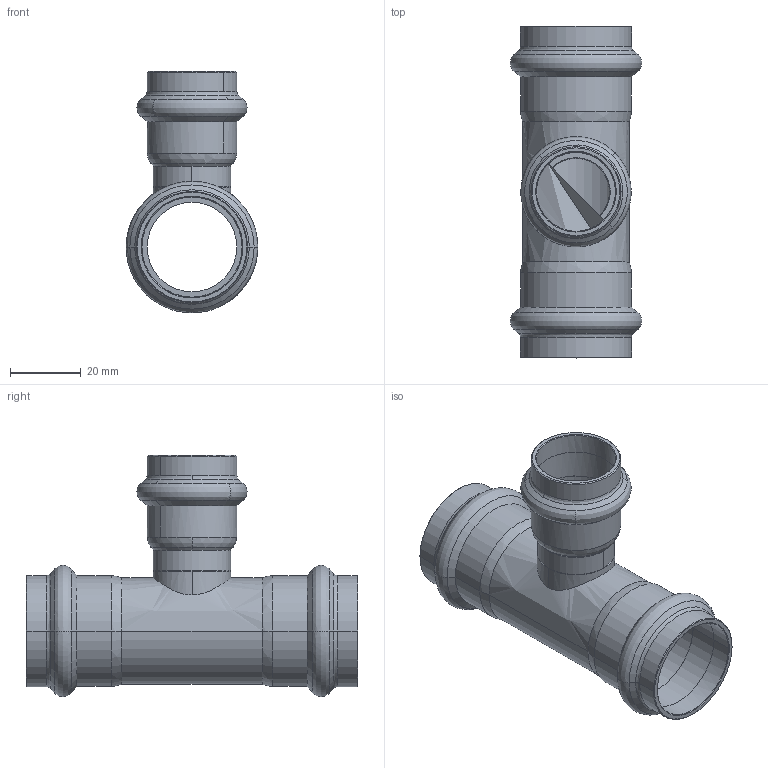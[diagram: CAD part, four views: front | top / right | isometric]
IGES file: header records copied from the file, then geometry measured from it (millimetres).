
Start section: Elysium IGES Interface
Global section: file name: C:\Users\Wallenburg\Desktop\3d modellen sudo\S-Pr VP\SP6130RV\6130RVW282228.igs; native system: CoCreate Modeling 17.00A  17-Jun-2010; preprocessor: CoCreate IGES_3D V2.2; author: Unknown; organization: Unknown; date: 20130117.134521; units: millimetre
Bounding box: 37.2 x 93.81 x 68.3 mm (x, y, z)
Surface area: 23929.9 mm2 (no closed solid volume)
Topology: 0 solids, 1 shells, 128 faces, 291 edges, 171 vertices
Faces by surface type: bspline 128
